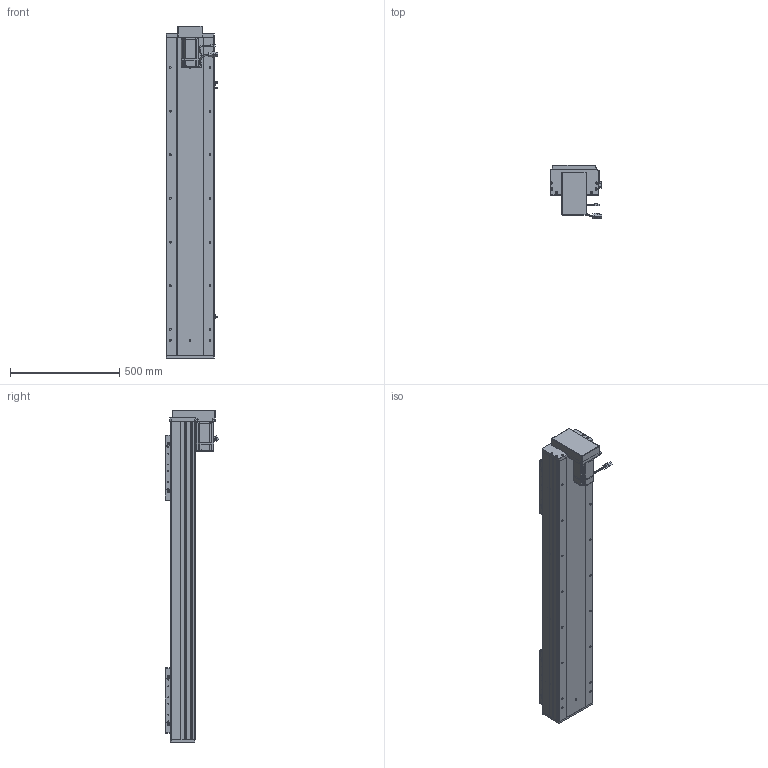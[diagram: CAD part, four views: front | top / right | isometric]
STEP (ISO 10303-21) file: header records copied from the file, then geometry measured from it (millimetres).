
FILE_DESCRIPTION (( 'STEP AP203' ), '1' );
FILE_NAME ('RY220F-L2525-300-BK.SLDASM_1050.step', '2022-07-04T01:20:54', ( '' ), ( '' ), 'SwSTEP 2.0', 'SolidWorks 2016', '' );
FILE_SCHEMA (( 'CONFIG_CONTROL_DESIGN' ));
Length unit declared in the file: millimetre
Products named in the file (15): RY220F-672覜茼んえ; RY220狟殏萇儂假蚾啣; 覜茼ん672; 侐源滅袉蝶; RY220F-祥凄詩湍-蛌殏-300_1050; 怢湛750W_ECMA-CX0807ES; RY220F綴裔啣; RY220F-詩湍揤踡輸; RY220F-L2525-300-BK.SLDASM_1050; 滅袉蝶18-24; RY220狟殏萇儂欶; RY220F臏賑釱25-32佪裝; RY220F-滅鳥奻裔; RY220F-蛌殏奻裔啣-300_1050; RY220F蛌殏菁釱-300_1050
Assembly tree (24 placements, depth 2):
  RY220F-L2525-300-BK.SLDASM_1050
    RY220F蛌殏菁釱-300_1050
    RY220F-蛌殏奻裔啣-300_1050  x2
    怢湛750W_ECMA-CX0807ES
    RY220F臏賑釱25-32佪裝  x2
    RY220F-滅鳥奻裔  x2
    滅袉蝶18-24  x3
    RY220F綴裔啣
    RY220F-祥凄詩湍-蛌殏-300_1050
    RY220F-詩湍揤踡輸  x2
    覜茼ん672  x3
    RY220F-672覜茼んえ  x2
    侐源滅袉蝶  x2
    RY220狟殏萇儂假蚾啣
    RY220狟殏萇儂欶
Bounding box: 237.27 x 247.24 x 1521 mm (x, y, z)
Volume: 14751905.1 mm3; surface area: 3803502.8 mm2
Topology: 25 solids, 25 shells, 2759 faces, 7502 edges, 4645 vertices
Faces by surface type: cylinder 1226, plane 1062, cone 400, bspline 45, sphere 16, torus 10
Entity records: 68393 total; most frequent: CARTESIAN_POINT 18615, ORIENTED_EDGE 10074, DIRECTION 9753, EDGE_CURVE 5037, AXIS2_PLACEMENT_3D 3450, VERTEX_POINT 3261, VECTOR 2853, LINE 2853
